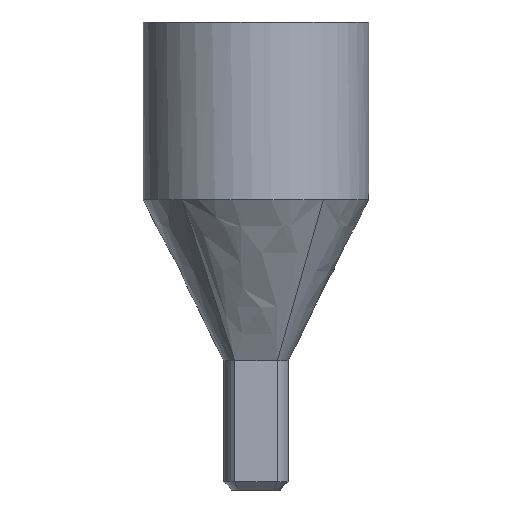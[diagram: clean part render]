
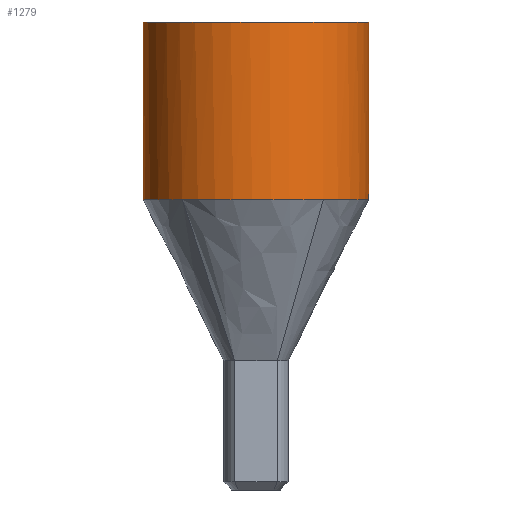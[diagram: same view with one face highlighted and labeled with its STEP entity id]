
A CAD part, front view. The second image highlights one B-rep face of the part: STEP entity #1279.
In plain terms, the highlighted cylindrical face has radius 7 mm (diameter 14 mm), a full revolution.
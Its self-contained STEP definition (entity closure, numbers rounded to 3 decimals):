
#20=FACE_BOUND('',#365,.T.);
#84=CYLINDRICAL_SURFACE('',#1346,7.);
#293=FACE_OUTER_BOUND('',#364,.T.);
#364=EDGE_LOOP('',(#1206));
#365=EDGE_LOOP('',(#1207,#1208));
#476=CIRCLE('',#1311,7.);
#477=CIRCLE('',#1312,7.);
#478=CIRCLE('',#1315,7.);
#561=VERTEX_POINT('',#4315);
#562=VERTEX_POINT('',#4317);
#563=VERTEX_POINT('',#4363);
#695=EDGE_CURVE('',#562,#561,#476,.T.);
#697=EDGE_CURVE('',#561,#562,#477,.T.);
#698=EDGE_CURVE('',#563,#563,#478,.T.);
#1206=ORIENTED_EDGE('',*,*,#698,.T.);
#1207=ORIENTED_EDGE('',*,*,#697,.T.);
#1208=ORIENTED_EDGE('',*,*,#695,.T.);
#1279=ADVANCED_FACE('',(#293,#20),#84,.T.);
#1311=AXIS2_PLACEMENT_3D('',#4318,#1402,#1403);
#1312=AXIS2_PLACEMENT_3D('',#4360,#1405,#1406);
#1315=AXIS2_PLACEMENT_3D('',#4364,#1411,#1412);
#1346=AXIS2_PLACEMENT_3D('',#12480,#1533,#1534);
#1402=DIRECTION('center_axis',(0.,0.,1.));
#1403=DIRECTION('ref_axis',(0.715,-0.699,0.));
#1405=DIRECTION('center_axis',(0.,0.,1.));
#1406=DIRECTION('ref_axis',(0.715,-0.699,0.));
#1411=DIRECTION('center_axis',(0.,0.,-1.));
#1412=DIRECTION('ref_axis',(0.715,-0.699,0.));
#1533=DIRECTION('center_axis',(0.,0.,1.));
#1534=DIRECTION('ref_axis',(0.715,-0.699,0.));
#4315=CARTESIAN_POINT('',(4.172,-5.621,-12.));
#4317=CARTESIAN_POINT('',(-4.566,-5.306,-12.));
#4318=CARTESIAN_POINT('Origin',(0.,0.,-12.));
#4360=CARTESIAN_POINT('Origin',(0.,0.,-12.));
#4363=CARTESIAN_POINT('',(7.,0.,-1.));
#4364=CARTESIAN_POINT('Origin',(0.,0.,-1.));
#12480=CARTESIAN_POINT('Origin',(0.,0.,-12.));
